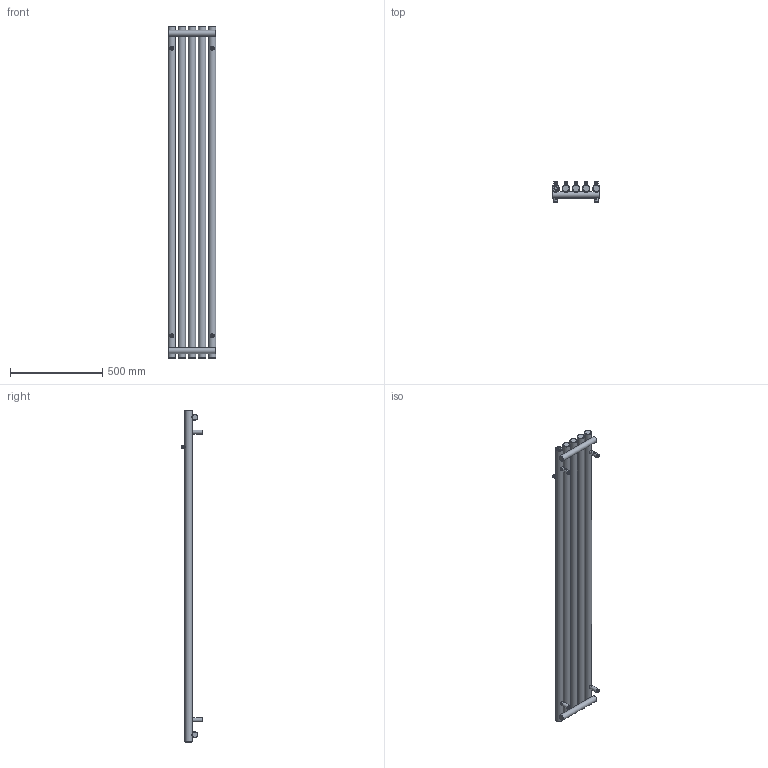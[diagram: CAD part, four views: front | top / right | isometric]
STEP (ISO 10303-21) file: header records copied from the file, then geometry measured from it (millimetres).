
FILE_DESCRIPTION(/* description */ (''),/* implementation_level */ '2;1');
FILE_NAME(/* name */ 'Z:\R\G\P\RGP116 - Grzejniki Geyser\Work\Inventor\Circolo (Rolo V, Rolo H)\ROLO-HANGER\Marketing\Bryły\Zaokrąglone\WGROW180026-SX-CK-(Z).stp',/* time_stamp */ '2024-03-26T15:38:14+01:00',/* author */ ('NowAd'),/* organization */ (''),/* preprocessor_version */ 'ST-DEVELOPER v17.2',/* originating_system */ 'Autodesk Inventor 2019',/* authorisation */ '');
FILE_SCHEMA (('AUTOMOTIVE_DESIGN { 1 0 10303 214 3 1 1 }'));
Length unit declared in the file: millimetre
Products named in the file (3): WGROR180026-SX-CK-(Z); PGROR180026-SX-CK-(K); CK-V-fi40 marketing
Assembly tree (5 placements, depth 2):
  WGROR180026-SX-CK-(Z)
    PGROR180026-SX-CK-(K)
    CK-V-fi40 marketing  x4
Bounding box: 260 x 116.5 x 1800 mm (x, y, z)
Volume: 11791053.2 mm3; surface area: 1232164.9 mm2
Topology: 5 solids, 5 shells, 379 faces, 964 edges, 653 vertices
Faces by surface type: plane 148, cylinder 89, torus 67, cone 60, bspline 15
Full cylindrical faces by diameter (mm): 4.134 x4, 4.48 x4, 6.4 x4, 10 x4, 12 x4, 14 x5, 15.834 x4, 16 x4, 18.631 x3, 20 x10, 22 x4, 32 x2, 40 x5
Entity records: 9328 total; most frequent: CARTESIAN_POINT 4393, DIRECTION 1079, ORIENTED_EDGE 976, AXIS2_PLACEMENT_3D 492, EDGE_CURVE 488, VERTEX_POINT 340, CIRCLE 295, EDGE_LOOP 250
